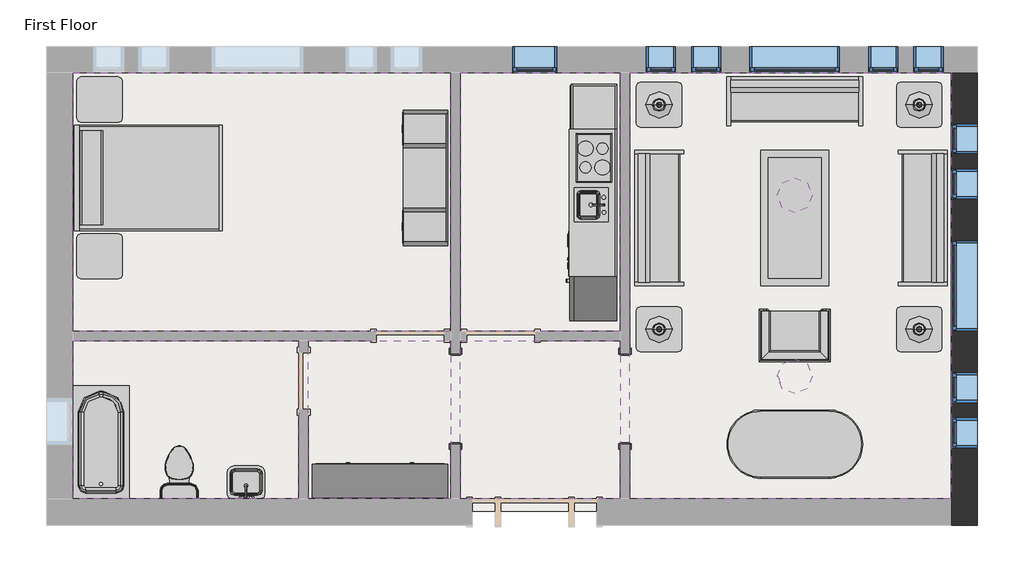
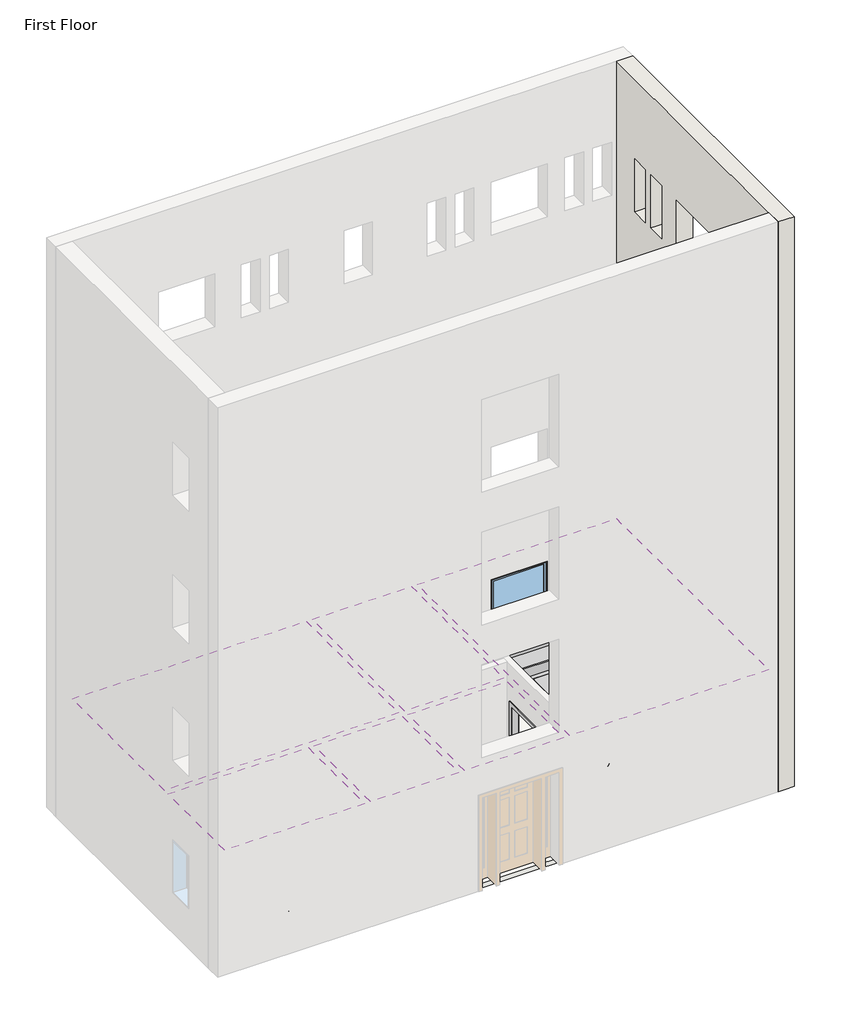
# One storey, part 2 of 2: 15 furniture elements, 11 windows, 6 coverings, 6 light fixtures, 3 flow terminals, 3 proxies, 1 slab, 1 wall.
"""IFC4 building model written with IfcOpenShell, lengths in millimetres."""

from ifc_helpers import new_model, si_unit, frame, origin, place, context, project, spatial, polyline, outline, extrude, faceted_brep, transform, mapped, element, save
from components import proxy_64a468c4, proxy_f44482cc, flow_terminal_0aeb31e3, toilet_domestic_3d_toilet_domestic_3d_f7549cf7, toilet_domestic_3d_toilet_domestic_3d_183bbd19, tub_rectangular_3d_tub_rectangular_3d_5e45a89b, furniture_096e7f55, chair_corbu_chair_corbu_2764bdef, furniture_7c473f12, furniture_ddc78764, furniture_4ef38d96, furniture_cd93a443, furniture_2c34a4f9, furniture_3a588284, furniture_1befe2a2, pendant_disk_c68bffb6, table_lamp_1_100_watt_incandescent_6e8cd8b1, window_da97879f, window_d61ef850, window_60baf983, window_6eb97611

model = new_model("IFC4")

# Units and contexts
model_context = context("Model", 3, world=origin())
ifc_project = project(units=[si_unit("LENGTHUNIT", "METRE", prefix="MILLI")], contexts=[model_context])

# Site, building, storey
site = spatial("IfcSite", under=ifc_project)
building = spatial("IfcBuilding", under=site)
storey = spatial("IfcBuildingStorey", under=building, Name="First Floor", Elevation=0.0)

# Proxies
placement = place(None, origin())
proxy_shape = proxy_64a468c4(model_context)
element("IfcBuildingElementProxy", 1, Name="Kitchenette - Medium : 8'6\"", ObjectType="Kitchenette - Medium : 8'6\"", at=placement, inside=storey, context=model_context, shape_type="MappedRepresentation", body=[
    mapped(proxy_shape, transform((-3887.7589563, 8837.7956433, 0.0), x_axis=(0.0, -1.0, 0.0), y_axis=(1.0, 0.0, 0.0), z_axis=(0.0, 0.0, 1.0))),
])
proxy_2_shape = proxy_f44482cc(model_context)
element("IfcBuildingElementProxy", 2, Name="Opening-Cased : 48\" x 84\"", ObjectType="Opening-Cased : 48\" x 84\"", at=placement, inside=storey, context=model_context, shape_type="MappedRepresentation", body=[
    mapped(proxy_2_shape, transform((-3773.4589563, 5882.4203434, 0.0), x_axis=(0.0, 1.0, 0.0), y_axis=(-1.0, 0.0, 0.0), z_axis=(0.0, 0.0, 1.0))),
])
element("IfcBuildingElementProxy", 3, Name="Opening-Cased : 48\" x 84\"", ObjectType="Opening-Cased : 48\" x 84\"", at=placement, inside=storey, context=model_context, shape_type="MappedRepresentation", body=[
    mapped(proxy_2_shape, transform((-6059.4589563, 5866.04303, 0.0), x_axis=(0.0, -1.0, 0.0), y_axis=(1.0, 0.0, 0.0), z_axis=(0.0, 0.0, 1.0))),
])

# Coverings
element("IfcCovering", 4, ObjectType="GWB on Mtl. Stud", at=placement, inside=storey, context=model_context, shape_type="SweptSolid", body=[
    extrude(outline(polyline([(-11217.2464563, 10270.0191867), (-6122.9589563, 10270.0191867), (-6122.9589563, 6787.0441867), (-11217.2464563, 6787.0441867), (-11217.2464563, 10270.0191867)])), frame((0.0, 0.0, 2590.8), z_axis=(0.0, 0.0, 1.0), x_axis=(1.0, 0.0, 0.0)), (0.0, 0.0, 1.0), 107.95),
])
element("IfcCovering", 5, ObjectType="GWB on Mtl. Stud", at=placement, inside=storey, context=model_context, shape_type="SweptSolid", body=[
    extrude(outline(polyline([(-5995.9589563, 6787.0441867), (-5995.9589563, 10270.0191867), (-3836.9589563, 10270.0191867), (-3836.9589563, 6787.0441867), (-5995.9589563, 6787.0441867)])), frame((0.0, 0.0, 2590.8), z_axis=(0.0, 0.0, 1.0), x_axis=(1.0, 0.0, 0.0)), (0.0, 0.0, 1.0), 107.95),
])
element("IfcCovering", 6, ObjectType="GWB on Mtl. Stud", at=placement, inside=storey, context=model_context, shape_type="SweptSolid", body=[
    extrude(outline(polyline([(-3709.9589563, 4526.4441867), (-3709.9589563, 10270.0191867), (622.3285437, 10270.0191867), (622.3285437, 4526.4441867), (-3709.9589563, 4526.4441867)])), frame((0.0, 0.0, 2590.8), z_axis=(0.0, 0.0, 1.0), x_axis=(1.0, 0.0, 0.0)), (0.0, 0.0, 1.0), 107.95),
])
element("IfcCovering", 7, ObjectType="GWB on Mtl. Stud", at=placement, inside=storey, context=model_context, shape_type="SweptSolid", body=[
    extrude(outline(polyline([(-3836.9589563, 4526.4441867), (-5995.9589563, 4526.4441867), (-5995.9589563, 6660.0441867), (-3836.9589563, 6660.0441867), (-3836.9589563, 4526.4441867)])), frame((0.0, 0.0, 2590.8), z_axis=(0.0, 0.0, 1.0), x_axis=(1.0, 0.0, 0.0)), (0.0, 0.0, 1.0), 107.95),
])
element("IfcCovering", 8, ObjectType="GWB on Mtl. Stud", at=placement, inside=storey, context=model_context, shape_type="SweptSolid", body=[
    extrude(outline(polyline([(-6122.9589563, 4526.4441867), (-8042.2464563, 4526.4441867), (-8042.2464563, 6660.0441867), (-6122.9589563, 6660.0441867), (-6122.9589563, 4526.4441867)])), frame((0.0, 0.0, 2590.8), z_axis=(0.0, 0.0, 1.0), x_axis=(1.0, 0.0, 0.0)), (0.0, 0.0, 1.0), 107.95),
])
element("IfcCovering", 9, ObjectType="GWB on Mtl. Stud", at=placement, inside=storey, context=model_context, shape_type="SweptSolid", body=[
    extrude(outline(polyline([(-8169.2464563, 6660.0441867), (-8169.2464563, 4526.4441867), (-11217.2464563, 4526.4441867), (-11217.2464563, 6660.0441867), (-8169.2464563, 6660.0441867)])), frame((0.0, 0.0, 2590.8), z_axis=(0.0, 0.0, 1.0), x_axis=(1.0, 0.0, 0.0)), (0.0, 0.0, 1.0), 107.95),
])

# Flow terminals
flow_terminal_shape = flow_terminal_0aeb31e3(model_context)
element("IfcFlowTerminal", 10, ObjectType="Sink Vanity-Square : 24\" x 19\"", at=placement, inside=storey, context=model_context, shape_type="MappedRepresentation", body=[
    mapped(flow_terminal_shape, transform((-8864.7572157, 4706.5895878, 0.0), x_axis=(-1.0, 0.0, 0.0), y_axis=(0.0, -1.0, 0.0), z_axis=(0.0, 0.0, 1.0))),
])
toilet_domestic_3d_toilet_domestic_3d_shape = toilet_domestic_3d_toilet_domestic_3d_f7549cf7(model_context)
toilet_domestic_3d_toilet_domestic_3d_2_shape = toilet_domestic_3d_toilet_domestic_3d_183bbd19(model_context)
element("IfcFlowTerminal", 11, ObjectType="Toilet-Domestic-3D : Toilet-Domestic-3D", at=placement, inside=storey, context=model_context, shape_type="MappedRepresentation", body=[
    mapped(toilet_domestic_3d_toilet_domestic_3d_shape, transform((-9782.1466587, 4940.866411, 0.0), x_axis=(-1.0000000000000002, 0.0, 0.0), y_axis=(0.0, -1.0000000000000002, 0.0), z_axis=(0.0, 0.0, 1.0))),
    mapped(toilet_domestic_3d_toilet_domestic_3d_2_shape, transform((-9782.1466587, 4940.866411, 0.0), x_axis=(-1.0000000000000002, 0.0, 0.0), y_axis=(0.0, -1.0000000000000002, 0.0), z_axis=(0.0, 0.0, 1.0))),
])
tub_rectangular_3d_tub_rectangular_3d_shape = tub_rectangular_3d_tub_rectangular_3d_5e45a89b(model_context)
element("IfcFlowTerminal", 12, ObjectType="Tub-Rectangular-3D : Tub-Rectangular-3D", at=placement, inside=storey, context=model_context, shape_type="MappedRepresentation", body=[
    mapped(tub_rectangular_3d_tub_rectangular_3d_shape, transform((-11393.4589563, 5637.0471554, 0.0), x_axis=(0.0, 1.0, 0.0), y_axis=(-1.0, 0.0, 0.0), z_axis=(0.0, 0.0, 1.0))),
])

# Furniture
furniture_shape = furniture_096e7f55(model_context)
element("IfcFurniture", 13, ObjectType="Bed-Shaker : Double 56\" x 78\"", at=placement, inside=storey, context=model_context, shape_type="MappedRepresentation", body=[
    mapped(furniture_shape, transform((-11183.1982802, 8871.8755561, 0.0), x_axis=(0.0, 1.0, 0.0), y_axis=(-1.0, 0.0, 0.0), z_axis=(0.0, 0.0, 1.0))),
])
chair_corbu_chair_corbu_shape = chair_corbu_chair_corbu_2764bdef(model_context)
element("IfcFurniture", 14, ObjectType="Chair-Corbu : Chair-Corbu", at=placement, inside=storey, context=model_context, shape_type="MappedRepresentation", body=[
    mapped(chair_corbu_chair_corbu_shape, transform((-914.0851858, 7193.4962359, 0.0), x_axis=(-1.0, 0.0, 0.0), y_axis=(0.0, -1.0, 0.0), z_axis=(0.0, 0.0, 1.0))),
])
furniture_2_shape = furniture_7c473f12(model_context)
element("IfcFurniture", 15, ObjectType="Dresser : 72\" x 60\" x 18\"", at=placement, inside=storey, context=model_context, shape_type="MappedRepresentation", body=[
    mapped(furniture_2_shape, transform((-7344.6522161, 4404.5812326, 0.0), x_axis=(-1.0, 0.0, 0.0), y_axis=(0.0, -1.0, 0.0), z_axis=(0.0, 0.0, 1.0))),
])
furniture_3_shape = furniture_ddc78764(model_context)
element("IfcFurniture", 16, ObjectType="Entertainment Center : 72\" x 72\" x 24\"", at=placement, inside=storey, context=model_context, shape_type="MappedRepresentation", body=[
    mapped(furniture_3_shape, transform((-6059.4589563, 8852.8255561, 0.0), x_axis=(0.0, -1.0, 0.0), y_axis=(1.0, 0.0, 0.0), z_axis=(0.0, 0.0, 1.0))),
])
furniture_4_shape = furniture_4ef38d96(model_context)
element("IfcFurniture", 17, ObjectType="Sofa : 72\"", at=placement, inside=storey, context=model_context, shape_type="MappedRepresentation", body=[
    mapped(furniture_4_shape, transform((-1557.8294481, 9741.2775883, 0.0), x_axis=(1.0, 0.0, 0.0), y_axis=(0.0, 1.0, 0.0), z_axis=(0.0, 0.0, 1.0))),
])
element("IfcFurniture", 18, ObjectType="Sofa : 72\"", at=placement, inside=storey, context=model_context, shape_type="MappedRepresentation", body=[
    mapped(furniture_4_shape, transform((93.5869453, 8383.0021785, 0.0), x_axis=(0.0, -1.0, 0.0), y_axis=(1.0, 0.0, 0.0), z_axis=(0.0, 0.0, 1.0))),
])
element("IfcFurniture", 19, ObjectType="Sofa : 72\"", at=placement, inside=storey, context=model_context, shape_type="MappedRepresentation", body=[
    mapped(furniture_4_shape, transform((-3170.104858, 8242.2611949, 0.0), x_axis=(0.0, 1.0, 0.0), y_axis=(-1.0, 0.0, 0.0), z_axis=(0.0, 0.0, 1.0))),
])
furniture_5_shape = furniture_cd93a443(model_context)
element("IfcFurniture", 20, ObjectType="Table-Coffee : 36\" x 72\" x 18\"", at=placement, inside=storey, context=model_context, shape_type="MappedRepresentation", body=[
    mapped(furniture_5_shape, transform((-1582.6700341, 8330.8974534, 0.0), x_axis=(0.0, -1.0, 0.0), y_axis=(1.0, 0.0, 0.0), z_axis=(0.0, 0.0, 1.0))),
])
furniture_6_shape = furniture_2c34a4f9(model_context)
element("IfcFurniture", 21, ObjectType="Table-Dining Oval : 36\" x 72\"", at=placement, inside=storey, context=model_context, shape_type="MappedRepresentation", body=[
    mapped(furniture_6_shape, transform((-1085.6392842, 5622.7300473, 0.0), x_axis=(1.0, 0.0, 0.0), y_axis=(0.0, 1.0, 0.0), z_axis=(0.0, 0.0, 1.0))),
])
furniture_7_shape = furniture_3a588284(model_context)
element("IfcFurniture", 22, ObjectType="Table-End : 24\" x 24\"", at=placement, inside=storey, context=model_context, shape_type="MappedRepresentation", body=[
    mapped(furniture_7_shape, transform((-119.5925866, 9684.2316867, 0.0), x_axis=(1.0, 0.0, 0.0), y_axis=(0.0, 1.0, 0.0), z_axis=(0.0, 0.0, 1.0))),
])
element("IfcFurniture", 23, ObjectType="Table-End : 24\" x 24\"", at=placement, inside=storey, context=model_context, shape_type="MappedRepresentation", body=[
    mapped(furniture_7_shape, transform((-3624.7925866, 9684.2316867, 0.0), x_axis=(1.0, 0.0, 0.0), y_axis=(0.0, 1.0, 0.0), z_axis=(0.0, 0.0, 1.0))),
])
element("IfcFurniture", 24, ObjectType="Table-End : 24\" x 24\"", at=placement, inside=storey, context=model_context, shape_type="MappedRepresentation", body=[
    mapped(furniture_7_shape, transform((-3624.7925866, 6660.0441867, 0.0), x_axis=(1.0, 0.0, 0.0), y_axis=(0.0, 1.0, 0.0), z_axis=(0.0, 0.0, 1.0))),
])
element("IfcFurniture", 25, ObjectType="Table-End : 24\" x 24\"", at=placement, inside=storey, context=model_context, shape_type="MappedRepresentation", body=[
    mapped(furniture_7_shape, transform((-119.5925866, 6660.0441867, 0.0), x_axis=(1.0, 0.0, 0.0), y_axis=(0.0, 1.0, 0.0), z_axis=(0.0, 0.0, 1.0))),
])
element("IfcFurniture", 26, ObjectType="Table-End : 24\" x 24\"", at=placement, inside=storey, context=model_context, shape_type="MappedRepresentation", body=[
    mapped(furniture_7_shape, transform((-11164.2346356, 9756.0737357, 0.0), x_axis=(1.0, 0.0, 0.0), y_axis=(0.0, 1.0, 0.0), z_axis=(0.0, 0.0, 1.0))),
])
furniture_8_shape = furniture_1befe2a2(model_context)
element("IfcFurniture", 27, ObjectType="Table-End : 24\" x 24\"", at=placement, inside=storey, context=model_context, shape_type="MappedRepresentation", body=[
    mapped(furniture_8_shape, transform((-11164.2346356, 7949.5773764, 0.0), x_axis=(1.0, 0.0, 0.0), y_axis=(0.0, 1.0, 0.0), z_axis=(0.0, 0.0, 1.0))),
])

# Light fixtures
pendant_disk_shape = pendant_disk_c68bffb6(model_context)
element("IfcLightFixture", 28, ObjectType="Pendant - Disk : 150 watt Incandescant", at=placement, inside=storey, context=model_context, shape_type="MappedRepresentation", body=[
    mapped(pendant_disk_shape, transform((-1487.4589563, 8617.4316867, 152.3999938), x_axis=(1.0, 0.0, 0.0), y_axis=(0.0, 1.0, 0.0), z_axis=(0.0, 0.0, 1.0))),
])
element("IfcLightFixture", 29, ObjectType="Pendant - Disk : 150 watt Incandescant", at=placement, inside=storey, context=model_context, shape_type="MappedRepresentation", body=[
    mapped(pendant_disk_shape, transform((-1487.4589563, 6179.0316867, 152.3999938), x_axis=(1.0, 0.0, 0.0), y_axis=(0.0, 1.0, 0.0), z_axis=(0.0, 0.0, 1.0))),
])
table_lamp_1_100_watt_incandescent_shape = table_lamp_1_100_watt_incandescent_6e8cd8b1(model_context)
element("IfcLightFixture", 30, ObjectType="Table Lamp 1 : 100 watt Incandescent", at=placement, inside=storey, context=model_context, shape_type="MappedRepresentation", body=[
    mapped(table_lamp_1_100_watt_incandescent_shape, transform((188.9410437, 6812.4441867, 381.0), x_axis=(1.0, 0.0, 0.0), y_axis=(0.0, 1.0, 0.0), z_axis=(0.0, 0.0, 1.0))),
])
element("IfcLightFixture", 31, ObjectType="Table Lamp 1 : 100 watt Incandescent", at=placement, inside=storey, context=model_context, shape_type="MappedRepresentation", body=[
    mapped(table_lamp_1_100_watt_incandescent_shape, transform((-3316.2589563, 9836.6316867, 381.0), x_axis=(1.0, 0.0, 0.0), y_axis=(0.0, 1.0, 0.0), z_axis=(0.0, 0.0, 1.0))),
])
element("IfcLightFixture", 32, ObjectType="Table Lamp 1 : 100 watt Incandescent", at=placement, inside=storey, context=model_context, shape_type="MappedRepresentation", body=[
    mapped(table_lamp_1_100_watt_incandescent_shape, transform((188.9410437, 9836.6316867, 381.0), x_axis=(1.0, 0.0, 0.0), y_axis=(0.0, 1.0, 0.0), z_axis=(0.0, 0.0, 1.0))),
])
element("IfcLightFixture", 33, ObjectType="Table Lamp 1 : 100 watt Incandescent", at=placement, inside=storey, context=model_context, shape_type="MappedRepresentation", body=[
    mapped(table_lamp_1_100_watt_incandescent_shape, transform((-3316.2589563, 6812.4441867, 381.0), x_axis=(1.0, 0.0, 0.0), y_axis=(0.0, 1.0, 0.0), z_axis=(0.0, 0.0, 1.0))),
])

# Slab
element("IfcSlab", 34, ObjectType="LW Concrete on Metal Deck", at=placement, inside=storey, context=model_context, shape_type="SweptSolid", body=[
    extrude(outline(polyline([(787.4285437, 10435.1191867), (787.4285437, 4361.3441867), (-11382.3464563, 4361.3441867), (-11382.3464563, 10435.1191867), (787.4285437, 10435.1191867)])), frame((0.0, 0.0, -104.775), z_axis=(0.0, 0.0, 1.0), x_axis=(1.0, 0.0, 0.0)), (0.0, 0.0, 1.0), 104.775),
])

# Wall
element("IfcWall", 35, ObjectType="Exterior - Brick on Mtl. Stud", at=placement, inside=storey, context=model_context, shape_type="Brep", body=[
    faceted_brep([(622.3285437, 10270.0191867, 0.0), (622.3285437, 4526.4441867, 0.0), (622.3285437, 4361.3441867, 0.0), (622.3285437, 4174.0191867, 0.0), (622.3285437, 4174.0191867, 13106.4), (622.3285437, 4526.4441867, 13106.4), (622.3285437, 10270.0191867, 13106.4), (622.3285437, 8007.8316867, 2133.6), (622.3285437, 6788.6316867, 2133.6), (622.3285437, 6788.6316867, 914.4), (622.3285437, 8007.8316867, 914.4), (622.3285437, 9582.6316867, 2133.6), (622.3285437, 9176.2316867, 2133.6), (622.3285437, 9176.2316867, 914.4), (622.3285437, 9582.6316867, 914.4), (622.3285437, 8973.0316867, 2133.6), (622.3285437, 8566.6316867, 2133.6), (622.3285437, 8566.6316867, 914.4), (622.3285437, 8973.0316867, 914.4), (622.3285437, 5213.8316867, 2133.6), (622.3285437, 5213.8316867, 914.4), (622.3285437, 5620.2316867, 914.4), (622.3285437, 5620.2316867, 2133.6), (622.3285437, 5823.4316867, 2133.6), (622.3285437, 5823.4316867, 914.4), (622.3285437, 6229.8316867, 914.4), (622.3285437, 6229.8316867, 2133.6), (622.3285437, 8007.8316867, 11277.6), (622.3285437, 6788.6316867, 11277.6), (622.3285437, 6788.6316867, 10058.4), (622.3285437, 8007.8316867, 10058.4), (622.3285437, 9582.6316867, 11277.6), (622.3285437, 9176.2316867, 11277.6), (622.3285437, 9176.2316867, 10058.4), (622.3285437, 9582.6316867, 10058.4), (622.3285437, 8973.0316867, 11277.6), (622.3285437, 8566.6316867, 11277.6), (622.3285437, 8566.6316867, 10058.4), (622.3285437, 8973.0316867, 10058.4), (622.3285437, 5213.8316867, 11277.6), (622.3285437, 5213.8316867, 10058.4), (622.3285437, 5620.2316867, 10058.4), (622.3285437, 5620.2316867, 11277.6), (622.3285437, 5823.4316867, 11277.6), (622.3285437, 5823.4316867, 10058.4), (622.3285437, 6229.8316867, 10058.4), (622.3285437, 6229.8316867, 11277.6), (622.3285437, 8007.8316867, 5181.6), (622.3285437, 6788.6316867, 5181.6), (622.3285437, 6788.6316867, 3962.4), (622.3285437, 8007.8316867, 3962.4), (622.3285437, 9582.6316867, 5181.6), (622.3285437, 9176.2316867, 5181.6), (622.3285437, 9176.2316867, 3962.4), (622.3285437, 9582.6316867, 3962.4), (622.3285437, 8973.0316867, 5181.6), (622.3285437, 8566.6316867, 5181.6), (622.3285437, 8566.6316867, 3962.4), (622.3285437, 8973.0316867, 3962.4), (622.3285437, 5213.8316867, 5181.6), (622.3285437, 5213.8316867, 3962.4), (622.3285437, 5620.2316867, 3962.4), (622.3285437, 5620.2316867, 5181.6), (622.3285437, 5823.4316867, 5181.6), (622.3285437, 5823.4316867, 3962.4), (622.3285437, 6229.8316867, 3962.4), (622.3285437, 6229.8316867, 5181.6), (622.3285437, 8007.8316867, 8229.6), (622.3285437, 6788.6316867, 8229.6), (622.3285437, 6788.6316867, 7010.4), (622.3285437, 8007.8316867, 7010.4), (622.3285437, 9582.6316867, 8229.6), (622.3285437, 9176.2316867, 8229.6), (622.3285437, 9176.2316867, 7010.4), (622.3285437, 9582.6316867, 7010.4), (622.3285437, 8973.0316867, 8229.6), (622.3285437, 8566.6316867, 8229.6), (622.3285437, 8566.6316867, 7010.4), (622.3285437, 8973.0316867, 7010.4), (622.3285437, 5213.8316867, 8229.6), (622.3285437, 5213.8316867, 7010.4), (622.3285437, 5620.2316867, 7010.4), (622.3285437, 5620.2316867, 8229.6), (622.3285437, 5823.4316867, 8229.6), (622.3285437, 5823.4316867, 7010.4), (622.3285437, 6229.8316867, 7010.4), (622.3285437, 6229.8316867, 8229.6), (974.7535437, 10270.0191867, 0.0), (974.7535437, 10270.0191867, 13106.4), (974.7535437, 4174.0191867, 13106.4), (974.7535437, 4174.0191867, 0.0), (974.7535437, 4361.3441867, 0.0), (974.7535437, 8007.8316867, 2133.6), (974.7535437, 8007.8316867, 914.4), (974.7535437, 6788.6316867, 914.4), (974.7535437, 6788.6316867, 2133.6), (974.7535437, 9582.6316867, 2133.6), (974.7535437, 9582.6316867, 914.4), (974.7535437, 9176.2316867, 914.4), (974.7535437, 9176.2316867, 2133.6), (974.7535437, 8973.0316867, 2133.6), (974.7535437, 8973.0316867, 914.4), (974.7535437, 8566.6316867, 914.4), (974.7535437, 8566.6316867, 2133.6), (974.7535437, 5213.8316867, 2133.6), (974.7535437, 5620.2316867, 2133.6), (974.7535437, 5620.2316867, 914.4), (974.7535437, 5213.8316867, 914.4), (974.7535437, 5823.4316867, 2133.6), (974.7535437, 6229.8316867, 2133.6), (974.7535437, 6229.8316867, 914.4), (974.7535437, 5823.4316867, 914.4), (974.7535437, 8007.8316867, 11277.6), (974.7535437, 8007.8316867, 10058.4), (974.7535437, 6788.6316867, 10058.4), (974.7535437, 6788.6316867, 11277.6), (974.7535437, 9582.6316867, 11277.6), (974.7535437, 9582.6316867, 10058.4), (974.7535437, 9176.2316867, 10058.4), (974.7535437, 9176.2316867, 11277.6), (974.7535437, 8973.0316867, 11277.6), (974.7535437, 8973.0316867, 10058.4), (974.7535437, 8566.6316867, 10058.4), (974.7535437, 8566.6316867, 11277.6), (974.7535437, 5213.8316867, 11277.6), (974.7535437, 5620.2316867, 11277.6), (974.7535437, 5620.2316867, 10058.4), (974.7535437, 5213.8316867, 10058.4), (974.7535437, 5823.4316867, 11277.6), (974.7535437, 6229.8316867, 11277.6), (974.7535437, 6229.8316867, 10058.4), (974.7535437, 5823.4316867, 10058.4), (974.7535437, 8007.8316867, 5181.6), (974.7535437, 8007.8316867, 3962.4), (974.7535437, 6788.6316867, 3962.4), (974.7535437, 6788.6316867, 5181.6), (974.7535437, 9582.6316867, 5181.6), (974.7535437, 9582.6316867, 3962.4), (974.7535437, 9176.2316867, 3962.4), (974.7535437, 9176.2316867, 5181.6), (974.7535437, 8973.0316867, 5181.6), (974.7535437, 8973.0316867, 3962.4), (974.7535437, 8566.6316867, 3962.4), (974.7535437, 8566.6316867, 5181.6), (974.7535437, 5213.8316867, 5181.6), (974.7535437, 5620.2316867, 5181.6), (974.7535437, 5620.2316867, 3962.4), (974.7535437, 5213.8316867, 3962.4), (974.7535437, 5823.4316867, 5181.6), (974.7535437, 6229.8316867, 5181.6), (974.7535437, 6229.8316867, 3962.4), (974.7535437, 5823.4316867, 3962.4), (974.7535437, 8007.8316867, 8229.6), (974.7535437, 8007.8316867, 7010.4), (974.7535437, 6788.6316867, 7010.4), (974.7535437, 6788.6316867, 8229.6), (974.7535437, 9582.6316867, 8229.6), (974.7535437, 9582.6316867, 7010.4), (974.7535437, 9176.2316867, 7010.4), (974.7535437, 9176.2316867, 8229.6), (974.7535437, 8973.0316867, 8229.6), (974.7535437, 8973.0316867, 7010.4), (974.7535437, 8566.6316867, 7010.4), (974.7535437, 8566.6316867, 8229.6), (974.7535437, 5213.8316867, 8229.6), (974.7535437, 5620.2316867, 8229.6), (974.7535437, 5620.2316867, 7010.4), (974.7535437, 5213.8316867, 7010.4), (974.7535437, 5823.4316867, 8229.6), (974.7535437, 6229.8316867, 8229.6), (974.7535437, 6229.8316867, 7010.4), (974.7535437, 5823.4316867, 7010.4), (787.4285437, 4174.0191867, 0.0), (787.4285437, 10270.0191867, 0.0), (787.4285437, 4361.3441867, 0.0)], [[[0, 1, 2, 3, 4, 5, 6], [7, 8, 9, 10], [11, 12, 13, 14], [15, 16, 17, 18], [19, 20, 21, 22], [23, 24, 25, 26], [27, 28, 29, 30], [31, 32, 33, 34], [35, 36, 37, 38], [39, 40, 41, 42], [43, 44, 45, 46], [47, 48, 49, 50], [51, 52, 53, 54], [55, 56, 57, 58], [59, 60, 61, 62], [63, 64, 65, 66], [67, 68, 69, 70], [71, 72, 73, 74], [75, 76, 77, 78], [79, 80, 81, 82], [83, 84, 85, 86]], [[87, 88, 89, 90, 91], [92, 93, 94, 95], [96, 97, 98, 99], [100, 101, 102, 103], [104, 105, 106, 107], [108, 109, 110, 111], [112, 113, 114, 115], [116, 117, 118, 119], [120, 121, 122, 123], [124, 125, 126, 127], [128, 129, 130, 131], [132, 133, 134, 135], [136, 137, 138, 139], [140, 141, 142, 143], [144, 145, 146, 147], [148, 149, 150, 151], [152, 153, 154, 155], [156, 157, 158, 159], [160, 161, 162, 163], [164, 165, 166, 167], [168, 169, 170, 171]], [[6, 5, 4, 89, 88]], [[4, 3, 172, 90, 89]], [[0, 6, 88, 87, 173]], [[173, 87, 91, 174]], [[3, 2, 174, 172]], [[174, 91, 90, 172]], [[2, 1, 0, 173, 174]], [[93, 92, 7, 10]], [[94, 93, 10, 9]], [[95, 94, 9, 8]], [[92, 95, 8, 7]], [[97, 96, 11, 14]], [[98, 97, 14, 13]], [[99, 98, 13, 12]], [[96, 99, 12, 11]], [[101, 100, 15, 18]], [[102, 101, 18, 17]], [[103, 102, 17, 16]], [[100, 103, 16, 15]], [[20, 19, 104, 107]], [[21, 20, 107, 106]], [[22, 21, 106, 105]], [[19, 22, 105, 104]], [[24, 23, 108, 111]], [[25, 24, 111, 110]], [[26, 25, 110, 109]], [[23, 26, 109, 108]], [[113, 112, 27, 30]], [[114, 113, 30, 29]], [[115, 114, 29, 28]], [[112, 115, 28, 27]], [[117, 116, 31, 34]], [[118, 117, 34, 33]], [[119, 118, 33, 32]], [[116, 119, 32, 31]], [[121, 120, 35, 38]], [[122, 121, 38, 37]], [[123, 122, 37, 36]], [[120, 123, 36, 35]], [[40, 39, 124, 127]], [[41, 40, 127, 126]], [[42, 41, 126, 125]], [[39, 42, 125, 124]], [[44, 43, 128, 131]], [[45, 44, 131, 130]], [[46, 45, 130, 129]], [[43, 46, 129, 128]], [[133, 132, 47, 50]], [[134, 133, 50, 49]], [[135, 134, 49, 48]], [[132, 135, 48, 47]], [[137, 136, 51, 54]], [[138, 137, 54, 53]], [[139, 138, 53, 52]], [[136, 139, 52, 51]], [[141, 140, 55, 58]], [[142, 141, 58, 57]], [[143, 142, 57, 56]], [[140, 143, 56, 55]], [[60, 59, 144, 147]], [[61, 60, 147, 146]], [[62, 61, 146, 145]], [[59, 62, 145, 144]], [[64, 63, 148, 151]], [[65, 64, 151, 150]], [[66, 65, 150, 149]], [[63, 66, 149, 148]], [[153, 152, 67, 70]], [[154, 153, 70, 69]], [[155, 154, 69, 68]], [[152, 155, 68, 67]], [[157, 156, 71, 74]], [[158, 157, 74, 73]], [[159, 158, 73, 72]], [[156, 159, 72, 71]], [[161, 160, 75, 78]], [[162, 161, 78, 77]], [[163, 162, 77, 76]], [[160, 163, 76, 75]], [[80, 79, 164, 167]], [[81, 80, 167, 166]], [[82, 81, 166, 165]], [[79, 82, 165, 164]], [[84, 83, 168, 171]], [[85, 84, 171, 170]], [[86, 85, 170, 169]], [[83, 86, 169, 168]]]),
])

# Windows
window_shape = window_da97879f(model_context)
element("IfcWindow", 36, ObjectType="Fixed : 16\" x 48\"", at=placement, inside=storey, context=model_context, shape_type="MappedRepresentation", body=[
    mapped(window_shape, transform((-3328.9589563, 10446.2316867, 0.0), x_axis=(-1.0, 0.0, 0.0), y_axis=(0.0, -1.0, 0.0), z_axis=(0.0, 0.0, 1.0))),
])
element("IfcWindow", 37, ObjectType="Fixed : 16\" x 48\"", at=placement, inside=storey, context=model_context, shape_type="MappedRepresentation", body=[
    mapped(window_shape, transform((-2719.3589563, 10446.2316867, 0.0), x_axis=(-1.0, 0.0, 0.0), y_axis=(0.0, -1.0, 0.0), z_axis=(0.0, 0.0, 1.0))),
])
element("IfcWindow", 38, ObjectType="Fixed : 16\" x 48\"", at=placement, inside=storey, context=model_context, shape_type="MappedRepresentation", body=[
    mapped(window_shape, transform((798.5410437, 9417.5316867, 0.0), x_axis=(0.0, 1.0, 0.0), y_axis=(-1.0, 0.0, 0.0), z_axis=(0.0, 0.0, 1.0))),
])
element("IfcWindow", 39, ObjectType="Fixed : 16\" x 48\"", at=placement, inside=storey, context=model_context, shape_type="MappedRepresentation", body=[
    mapped(window_shape, transform((798.5410437, 8807.9316867, 0.0), x_axis=(0.0, 1.0, 0.0), y_axis=(-1.0, 0.0, 0.0), z_axis=(0.0, 0.0, 1.0))),
])
window_2_shape = window_d61ef850(model_context)
element("IfcWindow", 40, ObjectType="Fixed : 16\" x 48\"", at=placement, inside=storey, context=model_context, shape_type="MappedRepresentation", body=[
    mapped(window_2_shape, transform((354.0410437, 10446.2316867, 0.0), x_axis=(1.0, 0.0, 0.0), y_axis=(0.0, 1.0, 0.0), z_axis=(0.0, 0.0, 1.0))),
])
element("IfcWindow", 41, ObjectType="Fixed : 16\" x 48\"", at=placement, inside=storey, context=model_context, shape_type="MappedRepresentation", body=[
    mapped(window_2_shape, transform((-255.5589563, 10446.2316867, 0.0), x_axis=(1.0, 0.0, 0.0), y_axis=(0.0, 1.0, 0.0), z_axis=(0.0, 0.0, 1.0))),
])
element("IfcWindow", 42, ObjectType="Fixed : 16\" x 48\"", at=placement, inside=storey, context=model_context, shape_type="MappedRepresentation", body=[
    mapped(window_2_shape, transform((798.5410437, 5378.9316867, 0.0), x_axis=(0.0, -1.0, 0.0), y_axis=(1.0, 0.0, 0.0), z_axis=(0.0, 0.0, 1.0))),
])
element("IfcWindow", 43, ObjectType="Fixed : 16\" x 48\"", at=placement, inside=storey, context=model_context, shape_type="MappedRepresentation", body=[
    mapped(window_2_shape, transform((798.5410437, 5988.5316867, 0.0), x_axis=(0.0, -1.0, 0.0), y_axis=(1.0, 0.0, 0.0), z_axis=(0.0, 0.0, 1.0))),
])
window_3_shape = window_60baf983(model_context)
element("IfcWindow", 44, ObjectType="Fixed : 24\" x 48\"", at=placement, inside=storey, context=model_context, shape_type="MappedRepresentation", body=[
    mapped(window_3_shape, transform((-5030.7589563, 10446.2316867, 0.0), x_axis=(-1.0, 0.0, 0.0), y_axis=(0.0, -1.0, 0.0), z_axis=(0.0, 0.0, 1.0))),
])
window_4_shape = window_6eb97611(model_context)
element("IfcWindow", 45, ObjectType="Fixed : 48\" x 48\"", at=placement, inside=storey, context=model_context, shape_type="MappedRepresentation", body=[
    mapped(window_4_shape, transform((-1525.5589563, 10446.2316867, 0.0), x_axis=(-1.0, 0.0, 0.0), y_axis=(0.0, -1.0, 0.0), z_axis=(0.0, 0.0, 1.0))),
])
element("IfcWindow", 46, ObjectType="Fixed : 48\" x 48\"", at=placement, inside=storey, context=model_context, shape_type="MappedRepresentation", body=[
    mapped(window_4_shape, transform((798.5410437, 7436.3316867, 0.0), x_axis=(0.0, 1.0, 0.0), y_axis=(-1.0, 0.0, 0.0), z_axis=(0.0, 0.0, 1.0))),
])

save(model, "model.ifc")
